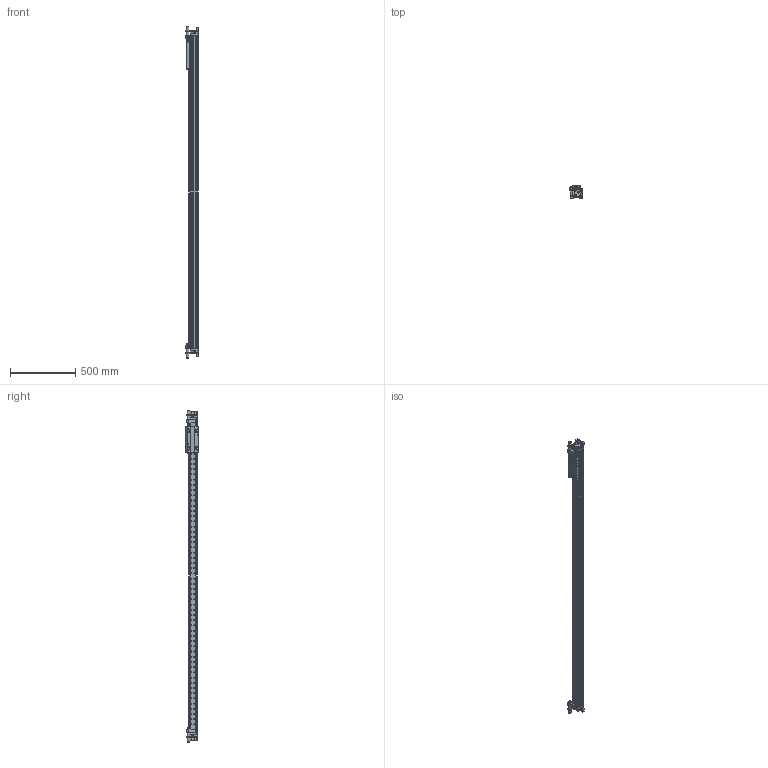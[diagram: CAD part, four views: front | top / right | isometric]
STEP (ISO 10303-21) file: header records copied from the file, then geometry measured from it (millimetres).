
FILE_DESCRIPTION (( 'STEP AP203' ), '1' );
FILE_NAME ('MXP40P_NP_SK86.000_MXP-495287-1.step', '2025-08-18T16:53:14', ( '' ), ( '' ), 'SwSTEP 2.0', 'SolidWorks 2024', '' );
FILE_SCHEMA (( 'CONFIG_CONTROL_DESIGN' ));
Length unit declared in the file: inch
Products named in the file (9): 81409500_MXP40P_NP_SK86.000_MXP-495287-1; 49121063_MXP40P_NP_SK86.000_MXP-495287-1; Base_MXP40P_NP_SK86.000_MXP-495287-1; 81409519_MXP40P_NP_SK86.000_MXP-495287-1; 49121067_MXP40P_NP_SK86.000_MXP-495287-1; 81409024_MXP40P_NP_SK86.000_MXP-495287-1; 81409514_MXP40P_NP_SK86.000_MXP-495287-1; MXP40P_NP_SK86.000_MXP-495287-1; 81009800_MXP40P_NP_SK86.000_MXP-495287-1
Assembly tree (13 placements, depth 2):
  MXP40P_NP_SK86.000_MXP-495287-1
    81409519_MXP40P_NP_SK86.000_MXP-495287-1  x2
    81009800_MXP40P_NP_SK86.000_MXP-495287-1  x2
    81409514_MXP40P_NP_SK86.000_MXP-495287-1
    81409500_MXP40P_NP_SK86.000_MXP-495287-1
    81409024_MXP40P_NP_SK86.000_MXP-495287-1  x2
    49121067_MXP40P_NP_SK86.000_MXP-495287-1  x2
    49121063_MXP40P_NP_SK86.000_MXP-495287-1  x2
    Base_MXP40P_NP_SK86.000_MXP-495287-1
Bounding box: 99.01 x 97.8 x 2550.28 mm (x, y, z)
Volume: 7879187.6 mm3; surface area: 1771032.8 mm2
Topology: 14 solids, 31 shells, 2463 faces, 6016 edges, 3890 vertices
Faces by surface type: plane 1344, cylinder 807, cone 202, torus 54, bspline 34, sphere 22
Full cylindrical faces by diameter (mm): 1 x4, 2.25 x4, 2.7 x8, 3.3 x8, 3.556 x2, 4 x8, 4.2 x4, 4.5 x120, 4.699 x2, 4.8 x2, 4.826 x2, 5 x2, 5.105 x16, 5.5 x4, 6 x4, 6.35 x12, 6.4 x4, 6.528 x8, 7 x10, 7.14 x4, 7.56 x2, 7.874 x2, 7.9 x8, 7.976 x2, 8 x120, 9.525 x12, 10 x4, 11.1 x16, 11.125 x2, 12.7 x2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
Entity records: 65533 total; most frequent: CARTESIAN_POINT 12893, DIRECTION 10734, ORIENTED_EDGE 9750, EDGE_CURVE 4875, AXIS2_PLACEMENT_3D 3952, VERTEX_POINT 3455, EDGE_LOOP 3316, VECTOR 2830
